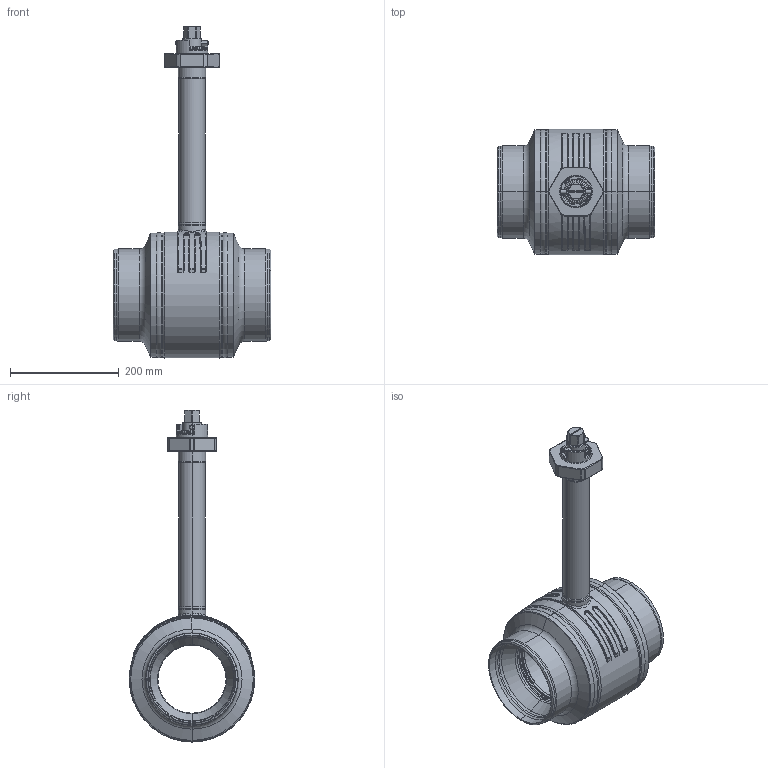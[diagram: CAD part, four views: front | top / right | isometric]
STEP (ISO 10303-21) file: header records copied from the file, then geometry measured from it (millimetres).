
FILE_DESCRIPTION((''),'2;1');
FILE_NAME('KHO-U-150R125-PN40-KURZ','2023-02-22T14:44:58',('jeitlers'),('KLINGER'),'CREO PARAMETRIC BY PTC INC, 2020184','CREO PARAMETRIC BY PTC INC, 2020184','');
FILE_SCHEMA(('AUTOMOTIVE_DESIGN { 1 0 10303 214 1 1 1 1 }'));
Length unit declared in the file: millimetre
Products named in the file (1): KHO-U-150R125-PN40-KURZ
Bounding box: 290 x 231 x 610.25 mm (x, y, z)
Volume: 3813512.5 mm3; surface area: 932826.3 mm2
Topology: 3 solids, 3 shells, 883 faces, 2110 edges, 1264 vertices
Faces by surface type: plane 311, cylinder 232, torus 172, cone 78, bspline 50, sphere 40
Entity records: 39168 total; most frequent: CARTESIAN_POINT 17572, DIRECTION 4550, ORIENTED_EDGE 4196, EDGE_CURVE 2098, AXIS2_PLACEMENT_3D 1765, VERTEX_POINT 1264, VECTOR 1017, LINE 1017
